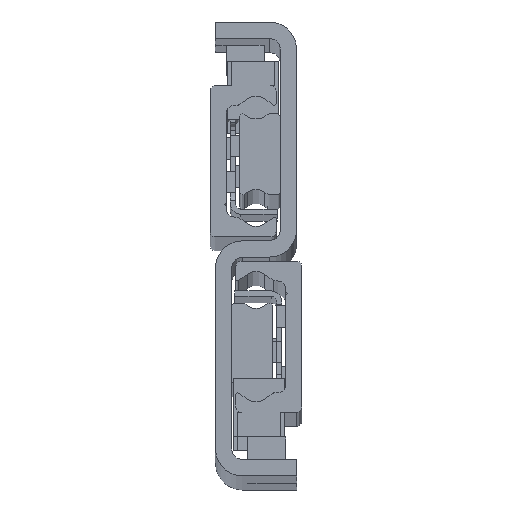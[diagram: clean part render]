
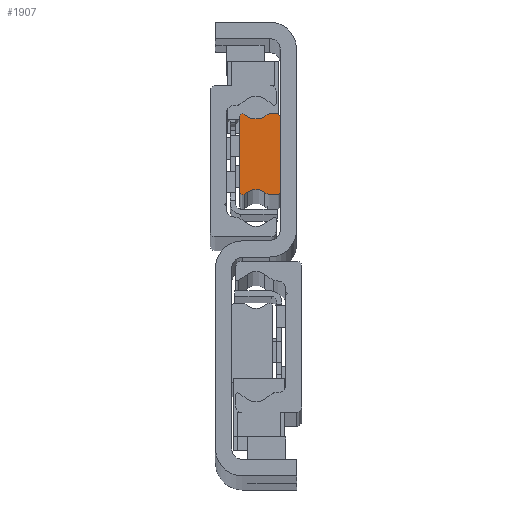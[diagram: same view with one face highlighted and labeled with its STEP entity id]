
A CAD part, top view. The second image highlights one B-rep face of the part: STEP entity #1907.
In plain terms, the highlighted planar face has unit normal (0, 0, 1) as drawn and (0, 0, -1) by its records, which use the part's own axes.
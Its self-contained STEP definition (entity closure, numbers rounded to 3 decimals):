
#163 = ORIENTED_EDGE ( 'NONE', *, *, #6028, .F. ) ;
#447 = DIRECTION ( 'NONE',  ( 0., 0., 1. ) ) ;
#715 = CARTESIAN_POINT ( 'NONE',  ( 2.446, 7.319, 0. ) ) ;
#776 = CARTESIAN_POINT ( 'NONE',  ( 2.907, 6.997, 0. ) ) ;
#1031 = DIRECTION ( 'NONE',  ( 0., 0., -1. ) ) ;
#1241 = EDGE_CURVE ( 'NONE', #11720, #4369, #11822, .T. ) ;
#1244 = DIRECTION ( 'NONE',  ( 0.819, -0.574, 0. ) ) ;
#1322 = DIRECTION ( 'NONE',  ( 1., 0., 0. ) ) ;
#1479 = CARTESIAN_POINT ( 'NONE',  ( 6.977, -6.977, 0. ) ) ;
#1605 = CARTESIAN_POINT ( 'NONE',  ( 0., -7., 0. ) ) ;
#1784 = VECTOR ( 'NONE', #1322, 1000. ) ;
#1907 = ADVANCED_FACE ( 'NONE', ( #3454 ), #18235, .T. ) ;
#1920 = ORIENTED_EDGE ( 'NONE', *, *, #4199, .F. ) ;
#2134 = EDGE_CURVE ( 'NONE', #6493, #11491, #13106, .T. ) ;
#2148 = VERTEX_POINT ( 'NONE', #15771 ) ;
#2551 = ORIENTED_EDGE ( 'NONE', *, *, #10963, .F. ) ;
#2860 = AXIS2_PLACEMENT_3D ( 'NONE', #6763, #12425, #14000 ) ;
#2871 = VECTOR ( 'NONE', #14897, 1000. ) ;
#3157 = EDGE_CURVE ( 'NONE', #8859, #5367, #5492, .T. ) ;
#3228 = CARTESIAN_POINT ( 'NONE',  ( 1.873, -7.5, 0. ) ) ;
#3255 = ORIENTED_EDGE ( 'NONE', *, *, #1241, .F. ) ;
#3454 = FACE_OUTER_BOUND ( 'NONE', #11586, .T. ) ;
#3495 = CARTESIAN_POINT ( 'NONE',  ( 0.5, 7.5, 0. ) ) ;
#3560 = DIRECTION ( 'NONE',  ( 0., 0., 1. ) ) ;
#3568 = VERTEX_POINT ( 'NONE', #15502 ) ;
#3792 = AXIS2_PLACEMENT_3D ( 'NONE', #13850, #3560, #5067 ) ;
#3942 = VERTEX_POINT ( 'NONE', #1605 ) ;
#4109 = ORIENTED_EDGE ( 'NONE', *, *, #10370, .F. ) ;
#4128 = EDGE_CURVE ( 'NONE', #14985, #18797, #15578, .T. ) ;
#4199 = EDGE_CURVE ( 'NONE', #3568, #5195, #10783, .T. ) ;
#4369 = VERTEX_POINT ( 'NONE', #7949 ) ;
#4773 = CARTESIAN_POINT ( 'NONE',  ( 6.677, -7.405, 0. ) ) ;
#4784 = VECTOR ( 'NONE', #16531, 1000. ) ;
#4898 = ORIENTED_EDGE ( 'NONE', *, *, #6590, .F. ) ;
#5067 = DIRECTION ( 'NONE',  ( -1., 0., 0. ) ) ;
#5100 = CARTESIAN_POINT ( 'NONE',  ( 1.873, -6.5, 0. ) ) ;
#5143 = DIRECTION ( 'NONE',  ( 0., 0., -1. ) ) ;
#5170 = DIRECTION ( 'NONE',  ( 0., 0., 1. ) ) ;
#5195 = VERTEX_POINT ( 'NONE', #8772 ) ;
#5341 = ORIENTED_EDGE ( 'NONE', *, *, #3157, .F. ) ;
#5367 = VERTEX_POINT ( 'NONE', #4773 ) ;
#5407 = CARTESIAN_POINT ( 'NONE',  ( 6.093, -6.997, 0. ) ) ;
#5492 = LINE ( 'NONE', #17441, #8717 ) ;
#5521 = CARTESIAN_POINT ( 'NONE',  ( 7.5, 6.977, 0. ) ) ;
#5555 = EDGE_CURVE ( 'NONE', #18797, #8010, #17359, .T. ) ;
#5794 = CARTESIAN_POINT ( 'NONE',  ( 0.5, -7.5, 0. ) ) ;
#6028 = EDGE_CURVE ( 'NONE', #11491, #3568, #7241, .T. ) ;
#6233 = DIRECTION ( 'NONE',  ( 1., 0., 0. ) ) ;
#6411 = CIRCLE ( 'NONE', #10133, 0.523 ) ;
#6493 = VERTEX_POINT ( 'NONE', #18032 ) ;
#6504 = VECTOR ( 'NONE', #7916, 1000. ) ;
#6590 = EDGE_CURVE ( 'NONE', #7597, #17463, #9760, .T. ) ;
#6747 = VECTOR ( 'NONE', #18421, 1000. ) ;
#6763 = CARTESIAN_POINT ( 'NONE',  ( 0.5, 7., 0. ) ) ;
#7012 = ORIENTED_EDGE ( 'NONE', *, *, #5555, .F. ) ;
#7232 = ORIENTED_EDGE ( 'NONE', *, *, #8079, .F. ) ;
#7241 = CIRCLE ( 'NONE', #8150, 0.523 ) ;
#7597 = VERTEX_POINT ( 'NONE', #14149 ) ;
#7612 = ORIENTED_EDGE ( 'NONE', *, *, #2134, .F. ) ;
#7688 = CARTESIAN_POINT ( 'NONE',  ( 6.093, 6.997, 0. ) ) ;
#7916 = DIRECTION ( 'NONE',  ( -1., 0., 0. ) ) ;
#7948 = DIRECTION ( 'NONE',  ( -1., 0., 0. ) ) ;
#7949 = CARTESIAN_POINT ( 'NONE',  ( 0., 7., 0. ) ) ;
#8010 = VERTEX_POINT ( 'NONE', #12059 ) ;
#8079 = EDGE_CURVE ( 'NONE', #3942, #14985, #15883, .T. ) ;
#8150 = AXIS2_PLACEMENT_3D ( 'NONE', #18046, #12343, #18106 ) ;
#8152 = ORIENTED_EDGE ( 'NONE', *, *, #16582, .F. ) ;
#8247 = VECTOR ( 'NONE', #8741, 1000. ) ;
#8476 = ORIENTED_EDGE ( 'NONE', *, *, #13132, .F. ) ;
#8717 = VECTOR ( 'NONE', #1244, 1000. ) ;
#8741 = DIRECTION ( 'NONE',  ( 0.819, 0.574, 0. ) ) ;
#8772 = CARTESIAN_POINT ( 'NONE',  ( 6.093, 6.997, 0. ) ) ;
#8859 = VERTEX_POINT ( 'NONE', #5407 ) ;
#9519 = CARTESIAN_POINT ( 'NONE',  ( 6.977, 6.977, 0. ) ) ;
#9760 = CIRCLE ( 'NONE', #3792, 1. ) ;
#9893 = EDGE_CURVE ( 'NONE', #8010, #2148, #11464, .T. ) ;
#10133 = AXIS2_PLACEMENT_3D ( 'NONE', #1479, #13244, #10258 ) ;
#10258 = DIRECTION ( 'NONE',  ( -1., 0., 0. ) ) ;
#10368 = ORIENTED_EDGE ( 'NONE', *, *, #4128, .F. ) ;
#10370 = EDGE_CURVE ( 'NONE', #2148, #8859, #15787, .T. ) ;
#10681 = AXIS2_PLACEMENT_3D ( 'NONE', #9519, #5143, #15395 ) ;
#10744 = DIRECTION ( 'NONE',  ( 0., 0., -1. ) ) ;
#10783 = LINE ( 'NONE', #7688, #4784 ) ;
#10908 = CARTESIAN_POINT ( 'NONE',  ( 0.5, -7., 0. ) ) ;
#10963 = EDGE_CURVE ( 'NONE', #4369, #3942, #13466, .T. ) ;
#11354 = DIRECTION ( 'NONE',  ( 1., 0., 0. ) ) ;
#11464 = LINE ( 'NONE', #17206, #8247 ) ;
#11491 = VERTEX_POINT ( 'NONE', #15848 ) ;
#11586 = EDGE_LOOP ( 'NONE', ( #163, #7612, #8152, #5341, #4109, #15339, #7012, #10368, #7232, #2551, #3255, #15344, #4898, #8476, #13775, #1920 ) ) ;
#11720 = VERTEX_POINT ( 'NONE', #3495 ) ;
#11822 = CIRCLE ( 'NONE', #2860, 0.5 ) ;
#12059 = CARTESIAN_POINT ( 'NONE',  ( 2.446, -7.319, 0. ) ) ;
#12091 = CARTESIAN_POINT ( 'NONE',  ( 4.5, 9.272, 0. ) ) ;
#12103 = AXIS2_PLACEMENT_3D ( 'NONE', #10908, #447, #7948 ) ;
#12214 = CARTESIAN_POINT ( 'NONE',  ( 1.873, 7.5, 0. ) ) ;
#12343 = DIRECTION ( 'NONE',  ( 0., 0., 1. ) ) ;
#12425 = DIRECTION ( 'NONE',  ( 0., 0., 1. ) ) ;
#12446 = VECTOR ( 'NONE', #18679, 1000. ) ;
#12723 = CIRCLE ( 'NONE', #14750, 2.778 ) ;
#13106 = LINE ( 'NONE', #5521, #12446 ) ;
#13132 = EDGE_CURVE ( 'NONE', #19016, #7597, #13397, .T. ) ;
#13244 = DIRECTION ( 'NONE',  ( 0., 0., 1. ) ) ;
#13397 = LINE ( 'NONE', #715, #6747 ) ;
#13466 = LINE ( 'NONE', #17663, #2871 ) ;
#13775 = ORIENTED_EDGE ( 'NONE', *, *, #14224, .F. ) ;
#13850 = CARTESIAN_POINT ( 'NONE',  ( 1.873, 6.5, 0. ) ) ;
#14000 = DIRECTION ( 'NONE',  ( -1., 0., 0. ) ) ;
#14149 = CARTESIAN_POINT ( 'NONE',  ( 2.446, 7.319, 0. ) ) ;
#14197 = EDGE_CURVE ( 'NONE', #17463, #11720, #14757, .T. ) ;
#14224 = EDGE_CURVE ( 'NONE', #5195, #19016, #12723, .T. ) ;
#14750 = AXIS2_PLACEMENT_3D ( 'NONE', #12091, #10744, #6233 ) ;
#14757 = LINE ( 'NONE', #14952, #6504 ) ;
#14897 = DIRECTION ( 'NONE',  ( 0., -1., 0. ) ) ;
#14952 = CARTESIAN_POINT ( 'NONE',  ( 0.5, 7.5, 0. ) ) ;
#14985 = VERTEX_POINT ( 'NONE', #5794 ) ;
#15339 = ORIENTED_EDGE ( 'NONE', *, *, #9893, .F. ) ;
#15344 = ORIENTED_EDGE ( 'NONE', *, *, #14197, .F. ) ;
#15360 = DIRECTION ( 'NONE',  ( -1., 0., 0. ) ) ;
#15395 = DIRECTION ( 'NONE',  ( -1., 0., 0. ) ) ;
#15502 = CARTESIAN_POINT ( 'NONE',  ( 6.677, 7.405, 0. ) ) ;
#15578 = LINE ( 'NONE', #18916, #1784 ) ;
#15771 = CARTESIAN_POINT ( 'NONE',  ( 2.907, -6.997, 0. ) ) ;
#15787 = CIRCLE ( 'NONE', #19010, 2.778 ) ;
#15848 = CARTESIAN_POINT ( 'NONE',  ( 7.5, 6.977, 0. ) ) ;
#15883 = CIRCLE ( 'NONE', #12103, 0.5 ) ;
#16268 = CARTESIAN_POINT ( 'NONE',  ( 4.5, -9.272, 0. ) ) ;
#16531 = DIRECTION ( 'NONE',  ( -0.819, -0.574, 0. ) ) ;
#16582 = EDGE_CURVE ( 'NONE', #5367, #6493, #6411, .T. ) ;
#17206 = CARTESIAN_POINT ( 'NONE',  ( 2.907, -6.997, 0. ) ) ;
#17334 = AXIS2_PLACEMENT_3D ( 'NONE', #5100, #5170, #15360 ) ;
#17359 = CIRCLE ( 'NONE', #17334, 1. ) ;
#17441 = CARTESIAN_POINT ( 'NONE',  ( 6.677, -7.405, 0. ) ) ;
#17463 = VERTEX_POINT ( 'NONE', #12214 ) ;
#17663 = CARTESIAN_POINT ( 'NONE',  ( 0., -7., 0. ) ) ;
#18032 = CARTESIAN_POINT ( 'NONE',  ( 7.5, -6.977, 0. ) ) ;
#18046 = CARTESIAN_POINT ( 'NONE',  ( 6.977, 6.977, 0. ) ) ;
#18106 = DIRECTION ( 'NONE',  ( -1., 0., 0. ) ) ;
#18235 = PLANE ( 'NONE',  #10681 ) ;
#18421 = DIRECTION ( 'NONE',  ( -0.819, 0.574, 0. ) ) ;
#18679 = DIRECTION ( 'NONE',  ( 0., 1., 0. ) ) ;
#18797 = VERTEX_POINT ( 'NONE', #3228 ) ;
#18916 = CARTESIAN_POINT ( 'NONE',  ( 1.873, -7.5, 0. ) ) ;
#19010 = AXIS2_PLACEMENT_3D ( 'NONE', #16268, #1031, #11354 ) ;
#19016 = VERTEX_POINT ( 'NONE', #776 ) ;
